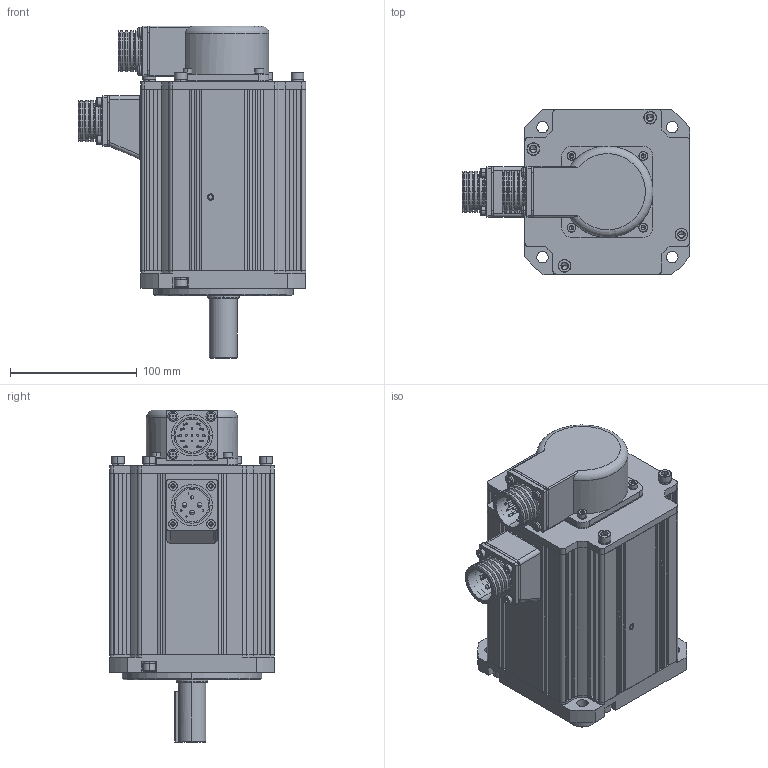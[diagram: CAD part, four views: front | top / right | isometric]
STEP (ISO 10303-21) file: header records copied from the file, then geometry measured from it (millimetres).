
FILE_DESCRIPTION((''),'2;1');
FILE_NAME('SV-MM13-3R0E-X-XA0-1000_ASM_ASM','2019-12-11T',('JWDQ'),(''),'CREO PARAMETRIC BY PTC INC, 2014050','CREO PARAMETRIC BY PTC INC, 2014050','');
FILE_SCHEMA(('CONFIG_CONTROL_DESIGN'));
Products named in the file (30): SV130PT-JK_2_1_2_3_4; 046770000100_1_1_2_3_4_5_6_7_15; 80750004_1_1_2_3_4_5_6_7_8_9_16; 78400020_1_1_2_3_4_5_6_7_8_9_16; GBT93-4_1_1_2_3_4_5_6_7_8_9__13; GBT7R1-4X35_1_1_2_3_4_5_6_7__14; 513704090100_1_1_2_3_4_5_6_7_16; S-YD28-4_ASM_1_1_2_3_4_5_6_7_14_ASM; SV130PT-DZ_ASM_2_1_2_3_4_ASM; SV130PT-ZHOU_2_1_2_3_4_AF0; SV130PT-HG_1_1_2_3_4_5_6; SV130DGL-HG_ASM_1_1_2_3_4_5_6_ASM; SV130PT-ZHUANZ_ASM_2_1_2_3__AF0_ASM; 80100007_1_1_2_3_4_5_6_7_8_9_16; 730030000200_1_1_2_3_4_5_6_7_16; SV130-QG_ASM_1_1_2_3_4_5_6_7_14_ASM; GBT1095-6X6-41_2_1_2_3_4; 82340004_1_1_2_3_4_5_6_7_8_9_16; 046770000100_1; 513715090100_1_1_2_3_4_5_6_7_16; 78400019_1_1_2_3_4_5_6_7_8_9_16; GBT93-4_1; GBT70R1-4X12_1_1_2_3_4_5_6_7_14; M4X16_1_1_2_3_4_5_6_7_8_9_10_16; TS5214_ASM_1_1_2_3_4_5_6_7_8_13_ASM; GBT93-6_1_1_2_3_4_5_6_7_8_9__14; GBT7R1-M6X16_1_1_2_3_4_5_6_7_14; GBT119R1-5X8_1_1_2_3_4_5_6; SV130PT_ASM_3_1_2_3_4_AF0_ASM; SV-MM13-3R0E-X-XA0-1000_ASM_ASM
Assembly tree (61 placements, depth 5):
  SV-MM13-3R0E-X-XA0-1000_ASM_ASM
    SV130PT_ASM_3_1_2_3_4_AF0_ASM
      SV130PT-DZ_ASM_2_1_2_3_4_ASM
        SV130PT-JK_2_1_2_3_4
        S-YD28-4_ASM_1_1_2_3_4_5_6_7_14_ASM
          046770000100_1_1_2_3_4_5_6_7_15
          80750004_1_1_2_3_4_5_6_7_8_9_16
          78400020_1_1_2_3_4_5_6_7_8_9_16
          GBT93-4_1_1_2_3_4_5_6_7_8_9__13  x4
          GBT7R1-4X35_1_1_2_3_4_5_6_7__14  x4
          513704090100_1_1_2_3_4_5_6_7_16
      SV130PT-ZHUANZ_ASM_2_1_2_3__AF0_ASM
        SV130PT-ZHOU_2_1_2_3_4_AF0
        SV130DGL-HG_ASM_1_1_2_3_4_5_6_ASM
          SV130PT-HG_1_1_2_3_4_5_6
      SV130-QG_ASM_1_1_2_3_4_5_6_7_14_ASM
        80100007_1_1_2_3_4_5_6_7_8_9_16
        730030000200_1_1_2_3_4_5_6_7_16
      GBT1095-6X6-41_2_1_2_3_4
      TS5214_ASM_1_1_2_3_4_5_6_7_8_13_ASM
        82340004_1_1_2_3_4_5_6_7_8_9_16
        046770000100_1
        513715090100_1_1_2_3_4_5_6_7_16
        78400019_1_1_2_3_4_5_6_7_8_9_16
        GBT93-4_1  x8
        GBT70R1-4X12_1_1_2_3_4_5_6_7_14  x4
        M4X16_1_1_2_3_4_5_6_7_8_9_10_16  x4
      GBT93-6_1_1_2_3_4_5_6_7_8_9__14  x7
      GBT7R1-M6X16_1_1_2_3_4_5_6_7_14  x8
      GBT119R1-5X8_1_1_2_3_4_5_6
Bounding box: 179.5 x 130 x 262 mm (x, y, z)
Volume: 992652 mm3; surface area: 403835.9 mm2
Topology: 54 solids, 71 shells, 3165 faces, 8261 edges, 5354 vertices
Faces by surface type: plane 1880, cylinder 765, cone 365, torus 102, bspline 27, sphere 26
Entity records: 99534 total; most frequent: CARTESIAN_POINT 16367, DIRECTION 13904, ORIENTED_EDGE 13658, EDGE_CURVE 6837, VECTOR 4716, LINE 4716, AXIS2_PLACEMENT_3D 4594, VERTEX_POINT 4534
